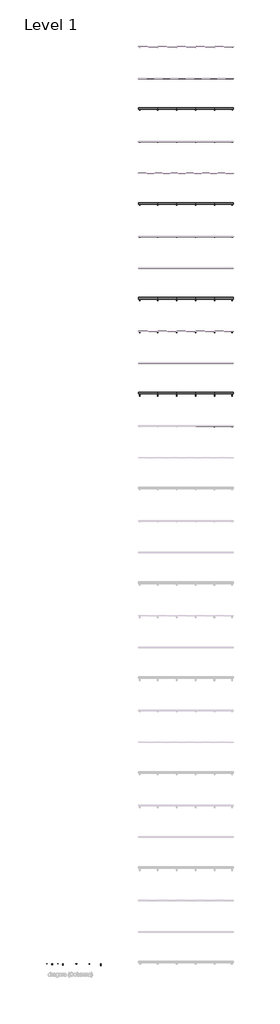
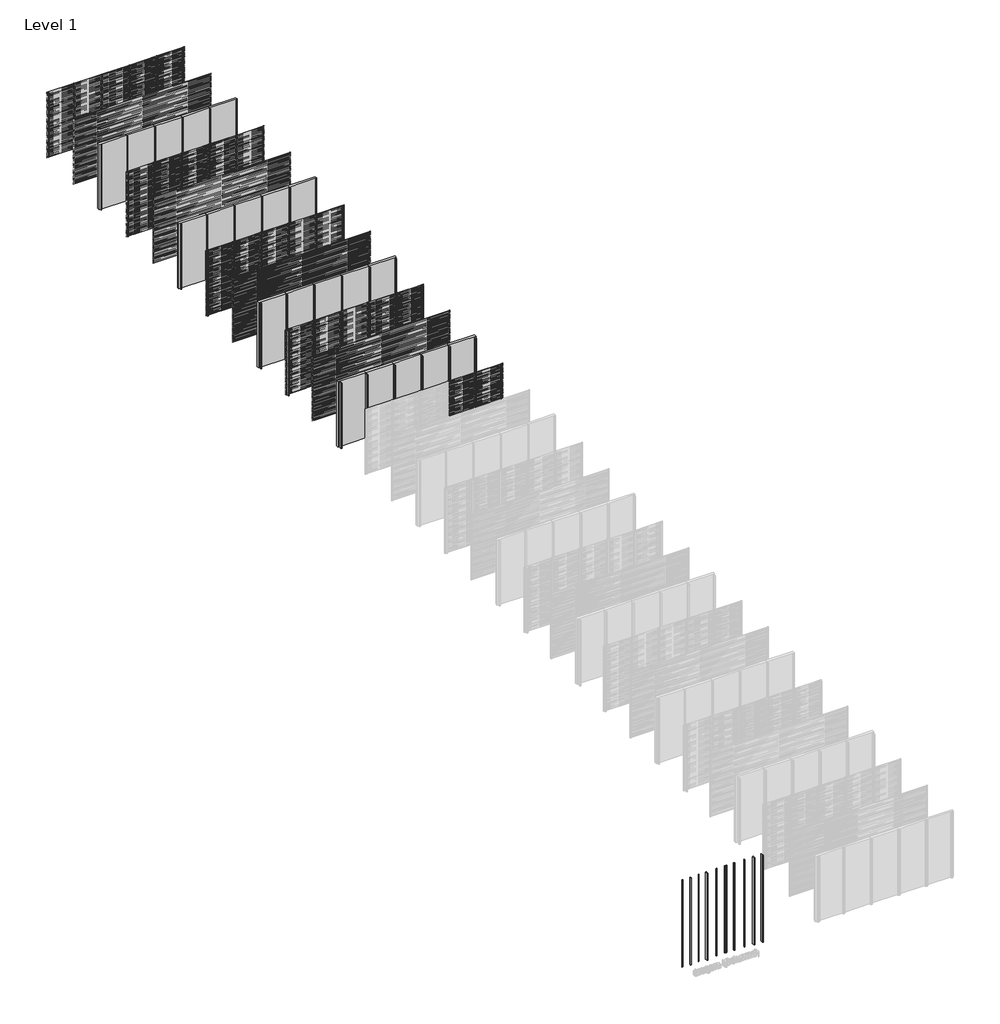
# One storey, part 2 of 77: 50 members, 46 plates, 10 columns.
"""IFC4 building model written with IfcOpenShell, lengths in millimetres."""

from ifc_helpers import new_model, si_unit, origin, origin_with_axes, place, context, project, spatial, polyline, outline, extrude, transform, mapped, element, save
from components import std_5c565dbb, std_899e7a4b, std_785593f7, std_43d18051, std_98619cea, std_01971508, std_518c84ec, std_1eaa2876, std_77a662f7, std_0d551fe3, rectangular_mullion_42be434b, rectangular_mullion_e1f482b2, rectangular_mullion_21e3ddae, rectangular_mullion_fb497acc, rectangular_mullion_3facce28, rectangular_mullion_ffdfeaf4, rectangular_mullion_e0a14876, rectangular_mullion_146f339b, rectangular_mullion_aa1047c5, rectangular_mullion_c2c7736a, rectangular_mullion_35b0a916, rectangular_mullion_bd250e2e, rectangular_mullion_7b49c8f1, rectangular_mullion_0fd695e7, empty_system_panel_empty_aabbdda4

model = new_model("IFC4")

# Units and contexts
model_context = context("Model", 3, world=origin())
ifc_project = project(units=[si_unit("LENGTHUNIT", "METRE", prefix="MILLI")], contexts=[model_context])

# Site, building, storey
site = spatial("IfcSite", under=ifc_project)
building = spatial("IfcBuilding", under=site)
storey = spatial("IfcBuildingStorey", under=building, Name="Level 1", Elevation=0.0)

# Columns
placement = place(None, origin())
std_shape = std_5c565dbb(model_context)
element("IfcColumn", 1, ObjectType="NLRS_21_COL_drager ST.014_Storax : std", at=placement, inside=storey, context=model_context, shape_type="MappedRepresentation", body=[
    mapped(std_shape, transform((-5824.7601511, -58000.0, 0.0), x_axis=(1.0, 0.0, 0.0), y_axis=(0.0, 1.0, 0.0), z_axis=(0.0, 0.0, 1.0))),
])
std_2_shape = std_899e7a4b(model_context)
element("IfcColumn", 2, ObjectType="NLRS_21_COL_drager ST.054_Storax : std", at=placement, inside=storey, context=model_context, shape_type="MappedRepresentation", body=[
    mapped(std_2_shape, transform((-5485.4429851, -58000.0, 0.0), x_axis=(1.0, 0.0, 0.0), y_axis=(0.0, 1.0, 0.0), z_axis=(0.0, 0.0, 1.0))),
])
std_3_shape = std_785593f7(model_context)
element("IfcColumn", 3, ObjectType="NLRS_21_COL_drager ST.0065_Storax : std", at=placement, inside=storey, context=model_context, shape_type="MappedRepresentation", body=[
    mapped(std_3_shape, transform((-5120.6954358, -58000.0, 0.0), x_axis=(1.0, 0.0, 0.0), y_axis=(0.0, 1.0, 0.0), z_axis=(0.0, 0.0, 1.0))),
])
std_4_shape = std_43d18051(model_context)
element("IfcColumn", 4, ObjectType="NLRS_21_COL_drager ST.100_Storax : std", at=placement, inside=storey, context=model_context, shape_type="MappedRepresentation", body=[
    mapped(std_4_shape, transform((-4798.3288682, -58000.0, 0.0), x_axis=(1.0, 0.0, 0.0), y_axis=(0.0, 1.0, 0.0), z_axis=(0.0, 0.0, 1.0))),
])
std_5_shape = std_98619cea(model_context)
element("IfcColumn", 5, ObjectType="NLRS_21_COL_drager ST.0195_Storax : std", at=placement, inside=storey, context=model_context, shape_type="MappedRepresentation", body=[
    mapped(std_5_shape, transform((-4346.8344505, -58000.0, 0.0), x_axis=(1.0, 0.0, 0.0), y_axis=(0.0, 1.0, 0.0), z_axis=(0.0, 0.0, 1.0))),
])
std_6_shape = std_01971508(model_context)
element("IfcColumn", 6, ObjectType="NLRS_21_COL_drager ST.0240_Storax : std", at=placement, inside=storey, context=model_context, shape_type="MappedRepresentation", body=[
    mapped(std_6_shape, transform((-3939.4792083, -58000.0, 0.0), x_axis=(1.0, 0.0, 0.0), y_axis=(0.0, 1.0, 0.0), z_axis=(0.0, 0.0, 1.0))),
])
std_7_shape = std_518c84ec(model_context)
element("IfcColumn", 7, ObjectType="NLRS_21_COL_drager ST.0440_Storax : std", at=placement, inside=storey, context=model_context, shape_type="MappedRepresentation", body=[
    mapped(std_7_shape, transform((-3585.3839676, -58000.0, 0.0), x_axis=(1.0, 0.0, 0.0), y_axis=(0.0, 1.0, 0.0), z_axis=(0.0, 0.0, 1.0))),
])
std_8_shape = std_1eaa2876(model_context)
element("IfcColumn", 8, ObjectType="NLRS_21_COL_drager ST.0460_Storax : std", at=placement, inside=storey, context=model_context, shape_type="MappedRepresentation", body=[
    mapped(std_8_shape, transform((-3138.0700537, -58000.0, 0.0), x_axis=(1.0, 0.0, 0.0), y_axis=(0.0, 1.0, 0.0), z_axis=(0.0, 0.0, 1.0))),
])
std_9_shape = std_77a662f7(model_context)
element("IfcColumn", 9, ObjectType="NLRS_21_COL_drager ST.0995_Storax : std", at=placement, inside=storey, context=model_context, shape_type="MappedRepresentation", body=[
    mapped(std_9_shape, transform((-2753.4636979, -58000.0, 0.0), x_axis=(1.0, 0.0, 0.0), y_axis=(0.0, 1.0, 0.0), z_axis=(0.0, 0.0, 1.0))),
])
std_10_shape = std_0d551fe3(model_context)
element("IfcColumn", 10, ObjectType="NLRS_21_COL_drager ST.1250_Storax : std", at=placement, inside=storey, context=model_context, shape_type="MappedRepresentation", body=[
    mapped(std_10_shape, transform((-2393.9403653, -58000.0, 0.0), x_axis=(1.0, 0.0, 0.0), y_axis=(0.0, 1.0, 0.0), z_axis=(0.0, 0.0, 1.0))),
])

# Members
rectangular_mullion_shape = rectangular_mullion_42be434b(model_context)
element("IfcMember", 11, ObjectType="Rectangular Mullion : NLRS_21_CWM_drager LD.0065_Storax", at=placement, inside=storey, context=model_context, shape_type="MappedRepresentation", body=[
    mapped(rectangular_mullion_shape, transform((4800.0, 0.0, 0.0), x_axis=(-1.0, 0.0, 0.0), y_axis=(0.0, 1.0, 0.0), z_axis=(0.0, 0.0, -1.0))),
])
element("IfcMember", 12, ObjectType="Rectangular Mullion : NLRS_21_CWM_drager LD.0065_Storax", at=placement, inside=storey, context=model_context, shape_type="MappedRepresentation", body=[
    mapped(rectangular_mullion_shape, transform((3600.0, 0.0, 0.0), x_axis=(-1.0, 0.0, 0.0), y_axis=(0.0, 1.0, 0.0), z_axis=(0.0, 0.0, -1.0))),
])
element("IfcMember", 13, ObjectType="Rectangular Mullion : NLRS_21_CWM_drager LD.0065_Storax", at=placement, inside=storey, context=model_context, shape_type="MappedRepresentation", body=[
    mapped(rectangular_mullion_shape, transform((2400.0, 0.0, 0.0), x_axis=(-1.0, 0.0, 0.0), y_axis=(0.0, 1.0, 0.0), z_axis=(0.0, 0.0, -1.0))),
])
element("IfcMember", 14, ObjectType="Rectangular Mullion : NLRS_21_CWM_drager LD.0065_Storax", at=placement, inside=storey, context=model_context, shape_type="MappedRepresentation", body=[
    mapped(rectangular_mullion_shape, transform((1200.0, 0.0, 0.0), x_axis=(-1.0, 0.0, 0.0), y_axis=(0.0, 1.0, 0.0), z_axis=(0.0, 0.0, -1.0))),
])
element("IfcMember", 15, ObjectType="Rectangular Mullion : NLRS_21_CWM_drager LD.0065_Storax", at=placement, inside=storey, context=model_context, shape_type="MappedRepresentation", body=[
    mapped(rectangular_mullion_shape, transform((4800.0, -4000.0, 0.0), x_axis=(-1.0, 0.0, 0.0), y_axis=(0.0, 1.0, 0.0), z_axis=(0.0, 0.0, -1.0))),
])
element("IfcMember", 16, ObjectType="Rectangular Mullion : NLRS_21_CWM_drager LD.0065_Storax", at=placement, inside=storey, context=model_context, shape_type="MappedRepresentation", body=[
    mapped(rectangular_mullion_shape, transform((3600.0, -4000.0, 0.0), x_axis=(-1.0, 0.0, 0.0), y_axis=(0.0, 1.0, 0.0), z_axis=(0.0, 0.0, -1.0))),
])
element("IfcMember", 17, ObjectType="Rectangular Mullion : NLRS_21_CWM_drager LD.0065_Storax", at=placement, inside=storey, context=model_context, shape_type="MappedRepresentation", body=[
    mapped(rectangular_mullion_shape, transform((2400.0, -4000.0, 0.0), x_axis=(-1.0, 0.0, 0.0), y_axis=(0.0, 1.0, 0.0), z_axis=(0.0, 0.0, -1.0))),
])
element("IfcMember", 18, ObjectType="Rectangular Mullion : NLRS_21_CWM_drager LD.0065_Storax", at=placement, inside=storey, context=model_context, shape_type="MappedRepresentation", body=[
    mapped(rectangular_mullion_shape, transform((1200.0, -4000.0, 0.0), x_axis=(-1.0, 0.0, 0.0), y_axis=(0.0, 1.0, 0.0), z_axis=(0.0, 0.0, -1.0))),
])
rectangular_mullion_2_shape = rectangular_mullion_e1f482b2(model_context)
element("IfcMember", 19, ObjectType="Rectangular Mullion : NLRS_21_CWM_drager LD.0195_Storax", at=placement, inside=storey, context=model_context, shape_type="MappedRepresentation", body=[
    mapped(rectangular_mullion_2_shape, transform((4800.0, -6000.0, 0.0), x_axis=(-1.0, 0.0, 0.0), y_axis=(0.0, 1.0, 0.0), z_axis=(0.0, 0.0, -1.0))),
])
element("IfcMember", 20, ObjectType="Rectangular Mullion : NLRS_21_CWM_drager LD.0195_Storax", at=placement, inside=storey, context=model_context, shape_type="MappedRepresentation", body=[
    mapped(rectangular_mullion_2_shape, transform((3600.0, -6000.0, 0.0), x_axis=(-1.0, 0.0, 0.0), y_axis=(0.0, 1.0, 0.0), z_axis=(0.0, 0.0, -1.0))),
])
element("IfcMember", 21, ObjectType="Rectangular Mullion : NLRS_21_CWM_drager LD.0195_Storax", at=placement, inside=storey, context=model_context, shape_type="MappedRepresentation", body=[
    mapped(rectangular_mullion_2_shape, transform((2400.0, -6000.0, 0.0), x_axis=(-1.0, 0.0, 0.0), y_axis=(0.0, 1.0, 0.0), z_axis=(0.0, 0.0, -1.0))),
])
element("IfcMember", 22, ObjectType="Rectangular Mullion : NLRS_21_CWM_drager LD.0195_Storax", at=placement, inside=storey, context=model_context, shape_type="MappedRepresentation", body=[
    mapped(rectangular_mullion_2_shape, transform((1200.0, -6000.0, 0.0), x_axis=(-1.0, 0.0, 0.0), y_axis=(0.0, 1.0, 0.0), z_axis=(0.0, 0.0, -1.0))),
])
element("IfcMember", 23, ObjectType="Rectangular Mullion : NLRS_21_CWM_drager LD.0195_Storax", at=placement, inside=storey, context=model_context, shape_type="MappedRepresentation", body=[
    mapped(rectangular_mullion_2_shape, transform((4800.0, -10000.0, 0.0), x_axis=(-1.0, 0.0, 0.0), y_axis=(0.0, 1.0, 0.0), z_axis=(0.0, 0.0, -1.0))),
])
element("IfcMember", 24, ObjectType="Rectangular Mullion : NLRS_21_CWM_drager LD.0195_Storax", at=placement, inside=storey, context=model_context, shape_type="MappedRepresentation", body=[
    mapped(rectangular_mullion_2_shape, transform((3600.0, -10000.0, 0.0), x_axis=(-1.0, 0.0, 0.0), y_axis=(0.0, 1.0, 0.0), z_axis=(0.0, 0.0, -1.0))),
])
element("IfcMember", 25, ObjectType="Rectangular Mullion : NLRS_21_CWM_drager LD.0195_Storax", at=placement, inside=storey, context=model_context, shape_type="MappedRepresentation", body=[
    mapped(rectangular_mullion_2_shape, transform((2400.0, -10000.0, 0.0), x_axis=(-1.0, 0.0, 0.0), y_axis=(0.0, 1.0, 0.0), z_axis=(0.0, 0.0, -1.0))),
])
element("IfcMember", 26, ObjectType="Rectangular Mullion : NLRS_21_CWM_drager LD.0195_Storax", at=placement, inside=storey, context=model_context, shape_type="MappedRepresentation", body=[
    mapped(rectangular_mullion_2_shape, transform((1200.0, -10000.0, 0.0), x_axis=(-1.0, 0.0, 0.0), y_axis=(0.0, 1.0, 0.0), z_axis=(0.0, 0.0, -1.0))),
])
rectangular_mullion_3_shape = rectangular_mullion_21e3ddae(model_context)
element("IfcMember", 27, ObjectType="Rectangular Mullion : NLRS_21_CWM_drager LD.0460_Storax", at=placement, inside=storey, context=model_context, shape_type="MappedRepresentation", body=[
    mapped(rectangular_mullion_3_shape, transform((4800.0, -12000.0, 0.0), x_axis=(-1.0, 0.0, 0.0), y_axis=(0.0, 1.0, 0.0), z_axis=(0.0, 0.0, -1.0))),
])
element("IfcMember", 28, ObjectType="Rectangular Mullion : NLRS_21_CWM_drager LD.0460_Storax", at=placement, inside=storey, context=model_context, shape_type="MappedRepresentation", body=[
    mapped(rectangular_mullion_3_shape, transform((3600.0, -12000.0, 0.0), x_axis=(-1.0, 0.0, 0.0), y_axis=(0.0, 1.0, 0.0), z_axis=(0.0, 0.0, -1.0))),
])
element("IfcMember", 29, ObjectType="Rectangular Mullion : NLRS_21_CWM_drager LD.0460_Storax", at=placement, inside=storey, context=model_context, shape_type="MappedRepresentation", body=[
    mapped(rectangular_mullion_3_shape, transform((2400.0, -12000.0, 0.0), x_axis=(-1.0, 0.0, 0.0), y_axis=(0.0, 1.0, 0.0), z_axis=(0.0, 0.0, -1.0))),
])
element("IfcMember", 30, ObjectType="Rectangular Mullion : NLRS_21_CWM_drager LD.0460_Storax", at=placement, inside=storey, context=model_context, shape_type="MappedRepresentation", body=[
    mapped(rectangular_mullion_3_shape, transform((1200.0, -12000.0, 0.0), x_axis=(-1.0, 0.0, 0.0), y_axis=(0.0, 1.0, 0.0), z_axis=(0.0, 0.0, -1.0))),
])
element("IfcMember", 31, ObjectType="Rectangular Mullion : NLRS_21_CWM_drager LD.0460_Storax", at=placement, inside=storey, context=model_context, shape_type="MappedRepresentation", body=[
    mapped(rectangular_mullion_3_shape, transform((4800.0, -16000.0, 0.0), x_axis=(-1.0, 0.0, 0.0), y_axis=(0.0, 1.0, 0.0), z_axis=(0.0, 0.0, -1.0))),
])
element("IfcMember", 32, ObjectType="Rectangular Mullion : NLRS_21_CWM_drager LD.0460_Storax", at=placement, inside=storey, context=model_context, shape_type="MappedRepresentation", body=[
    mapped(rectangular_mullion_3_shape, transform((3600.0, -16000.0, 0.0), x_axis=(-1.0, 0.0, 0.0), y_axis=(0.0, 1.0, 0.0), z_axis=(0.0, 0.0, -1.0))),
])
element("IfcMember", 33, ObjectType="Rectangular Mullion : NLRS_21_CWM_drager LD.0460_Storax", at=placement, inside=storey, context=model_context, shape_type="MappedRepresentation", body=[
    mapped(rectangular_mullion_3_shape, transform((2400.0, -16000.0, 0.0), x_axis=(-1.0, 0.0, 0.0), y_axis=(0.0, 1.0, 0.0), z_axis=(0.0, 0.0, -1.0))),
])
element("IfcMember", 34, ObjectType="Rectangular Mullion : NLRS_21_CWM_drager LD.0460_Storax", at=placement, inside=storey, context=model_context, shape_type="MappedRepresentation", body=[
    mapped(rectangular_mullion_3_shape, transform((1200.0, -16000.0, 0.0), x_axis=(-1.0, 0.0, 0.0), y_axis=(0.0, 1.0, 0.0), z_axis=(0.0, 0.0, -1.0))),
])
rectangular_mullion_4_shape = rectangular_mullion_fb497acc(model_context)
element("IfcMember", 35, ObjectType="Rectangular Mullion : NLRS_21_CWM_drager LD.0995_Storax", at=placement, inside=storey, context=model_context, shape_type="MappedRepresentation", body=[
    mapped(rectangular_mullion_4_shape, transform((4800.0, -18000.0, 0.0), x_axis=(-1.0, 0.0, 0.0), y_axis=(0.0, 1.0, 0.0), z_axis=(0.0, 0.0, -1.0))),
])
element("IfcMember", 36, ObjectType="Rectangular Mullion : NLRS_21_CWM_drager LD.0995_Storax", at=placement, inside=storey, context=model_context, shape_type="MappedRepresentation", body=[
    mapped(rectangular_mullion_4_shape, transform((3600.0, -18000.0, 0.0), x_axis=(-1.0, 0.0, 0.0), y_axis=(0.0, 1.0, 0.0), z_axis=(0.0, 0.0, -1.0))),
])
element("IfcMember", 37, ObjectType="Rectangular Mullion : NLRS_21_CWM_drager LD.0995_Storax", at=placement, inside=storey, context=model_context, shape_type="MappedRepresentation", body=[
    mapped(rectangular_mullion_4_shape, transform((2400.0, -18000.0, 0.0), x_axis=(-1.0, 0.0, 0.0), y_axis=(0.0, 1.0, 0.0), z_axis=(0.0, 0.0, -1.0))),
])
element("IfcMember", 38, ObjectType="Rectangular Mullion : NLRS_21_CWM_drager LD.0995_Storax", at=placement, inside=storey, context=model_context, shape_type="MappedRepresentation", body=[
    mapped(rectangular_mullion_4_shape, transform((1200.0, -18000.0, 0.0), x_axis=(-1.0, 0.0, 0.0), y_axis=(0.0, 1.0, 0.0), z_axis=(0.0, 0.0, -1.0))),
])
element("IfcMember", 39, ObjectType="Rectangular Mullion : NLRS_21_CWM_drager LD.0995_Storax", at=placement, inside=storey, context=model_context, shape_type="MappedRepresentation", body=[
    mapped(rectangular_mullion_4_shape, transform((4800.0, -22000.0, 0.0), x_axis=(-1.0, 0.0, 0.0), y_axis=(0.0, 1.0, 0.0), z_axis=(0.0, 0.0, -1.0))),
])
element("IfcMember", 40, ObjectType="Rectangular Mullion : NLRS_21_CWM_drager LD.0995_Storax", at=placement, inside=storey, context=model_context, shape_type="MappedRepresentation", body=[
    mapped(rectangular_mullion_4_shape, transform((3600.0, -22000.0, 0.0), x_axis=(-1.0, 0.0, 0.0), y_axis=(0.0, 1.0, 0.0), z_axis=(0.0, 0.0, -1.0))),
])
element("IfcMember", 41, ObjectType="Rectangular Mullion : NLRS_21_CWM_drager LD.0995_Storax", at=placement, inside=storey, context=model_context, shape_type="MappedRepresentation", body=[
    mapped(rectangular_mullion_4_shape, transform((2400.0, -22000.0, 0.0), x_axis=(-1.0, 0.0, 0.0), y_axis=(0.0, 1.0, 0.0), z_axis=(0.0, 0.0, -1.0))),
])
element("IfcMember", 42, ObjectType="Rectangular Mullion : NLRS_21_CWM_drager LD.0995_Storax", at=placement, inside=storey, context=model_context, shape_type="MappedRepresentation", body=[
    mapped(rectangular_mullion_4_shape, transform((1200.0, -22000.0, 0.0), x_axis=(-1.0, 0.0, 0.0), y_axis=(0.0, 1.0, 0.0), z_axis=(0.0, 0.0, -1.0))),
])
rectangular_mullion_5_shape = rectangular_mullion_3facce28(model_context)
element("IfcMember", 43, ObjectType="Rectangular Mullion : NLRS_21_CWM_drager SD.014_Storax", at=placement, inside=storey, context=model_context, shape_type="MappedRepresentation", body=[
    mapped(rectangular_mullion_5_shape, transform((4800.0, -24000.0, 0.0), x_axis=(-1.0, 0.0, 0.0), y_axis=(0.0, 1.0, 0.0), z_axis=(0.0, 0.0, -1.0))),
])
rectangular_mullion_6_shape = rectangular_mullion_ffdfeaf4(model_context)
element("IfcMember", 44, ObjectType="Rectangular Mullion : NLRS_21_CWM_drager LD.0065 - links_Storax", at=placement, inside=storey, context=model_context, shape_type="MappedRepresentation", body=[
    mapped(rectangular_mullion_6_shape, transform((0.0, 0.0, 0.0), x_axis=(-1.0, 0.0, 0.0), y_axis=(0.0, 1.0, 0.0), z_axis=(0.0, 0.0, -1.0))),
])
element("IfcMember", 45, ObjectType="Rectangular Mullion : NLRS_21_CWM_drager LD.0065 - links_Storax", at=placement, inside=storey, context=model_context, shape_type="MappedRepresentation", body=[
    mapped(rectangular_mullion_6_shape, transform((0.0, -4000.0, 0.0), x_axis=(-1.0, 0.0, 0.0), y_axis=(0.0, 1.0, 0.0), z_axis=(0.0, 0.0, -1.0))),
])
rectangular_mullion_7_shape = rectangular_mullion_e0a14876(model_context)
element("IfcMember", 46, ObjectType="Rectangular Mullion : NLRS_21_CWM_drager LD.0065 - rechts_Storax", at=placement, inside=storey, context=model_context, shape_type="MappedRepresentation", body=[
    mapped(rectangular_mullion_7_shape, transform((6000.0, 0.0, 3000.0), x_axis=(1.0, 0.0, 0.0), y_axis=(0.0, 1.0, 0.0), z_axis=(0.0, 0.0, 1.0))),
])
element("IfcMember", 47, ObjectType="Rectangular Mullion : NLRS_21_CWM_drager LD.0065 - rechts_Storax", at=placement, inside=storey, context=model_context, shape_type="MappedRepresentation", body=[
    mapped(rectangular_mullion_7_shape, transform((6000.0, -4000.0, 3000.0), x_axis=(1.0, 0.0, 0.0), y_axis=(0.0, 1.0, 0.0), z_axis=(0.0, 0.0, 1.0))),
])
rectangular_mullion_8_shape = rectangular_mullion_146f339b(model_context)
element("IfcMember", 48, ObjectType="Rectangular Mullion : NLRS_21_CWM_drager LD.0195 - links_Storax", at=placement, inside=storey, context=model_context, shape_type="MappedRepresentation", body=[
    mapped(rectangular_mullion_8_shape, transform((0.0, -6000.0, 0.0), x_axis=(-1.0, 0.0, 0.0), y_axis=(0.0, 1.0, 0.0), z_axis=(0.0, 0.0, -1.0))),
])
element("IfcMember", 49, ObjectType="Rectangular Mullion : NLRS_21_CWM_drager LD.0195 - links_Storax", at=placement, inside=storey, context=model_context, shape_type="MappedRepresentation", body=[
    mapped(rectangular_mullion_8_shape, transform((0.0, -10000.0, 0.0), x_axis=(-1.0, 0.0, 0.0), y_axis=(0.0, 1.0, 0.0), z_axis=(0.0, 0.0, -1.0))),
])
rectangular_mullion_9_shape = rectangular_mullion_aa1047c5(model_context)
element("IfcMember", 50, ObjectType="Rectangular Mullion : NLRS_21_CWM_drager LD.0195 - rechts_Storax", at=placement, inside=storey, context=model_context, shape_type="MappedRepresentation", body=[
    mapped(rectangular_mullion_9_shape, transform((6000.0, -6000.0, 3000.0), x_axis=(1.0, 0.0, 0.0), y_axis=(0.0, 1.0, 0.0), z_axis=(0.0, 0.0, 1.0))),
])
element("IfcMember", 51, ObjectType="Rectangular Mullion : NLRS_21_CWM_drager LD.0195 - rechts_Storax", at=placement, inside=storey, context=model_context, shape_type="MappedRepresentation", body=[
    mapped(rectangular_mullion_9_shape, transform((6000.0, -10000.0, 3000.0), x_axis=(1.0, 0.0, 0.0), y_axis=(0.0, 1.0, 0.0), z_axis=(0.0, 0.0, 1.0))),
])
rectangular_mullion_10_shape = rectangular_mullion_c2c7736a(model_context)
element("IfcMember", 52, ObjectType="Rectangular Mullion : NLRS_21_CWM_drager LD.0460 - links_Storax", at=placement, inside=storey, context=model_context, shape_type="MappedRepresentation", body=[
    mapped(rectangular_mullion_10_shape, transform((0.0, -12000.0, 0.0), x_axis=(-1.0, 0.0, 0.0), y_axis=(0.0, 1.0, 0.0), z_axis=(0.0, 0.0, -1.0))),
])
element("IfcMember", 53, ObjectType="Rectangular Mullion : NLRS_21_CWM_drager LD.0460 - links_Storax", at=placement, inside=storey, context=model_context, shape_type="MappedRepresentation", body=[
    mapped(rectangular_mullion_10_shape, transform((0.0, -16000.0, 0.0), x_axis=(-1.0, 0.0, 0.0), y_axis=(0.0, 1.0, 0.0), z_axis=(0.0, 0.0, -1.0))),
])
rectangular_mullion_11_shape = rectangular_mullion_35b0a916(model_context)
element("IfcMember", 54, ObjectType="Rectangular Mullion : NLRS_21_CWM_drager LD.0460 - rechts_Storax", at=placement, inside=storey, context=model_context, shape_type="MappedRepresentation", body=[
    mapped(rectangular_mullion_11_shape, transform((6000.0, -12000.0, 3000.0), x_axis=(1.0, 0.0, 0.0), y_axis=(0.0, 1.0, 0.0), z_axis=(0.0, 0.0, 1.0))),
])
element("IfcMember", 55, ObjectType="Rectangular Mullion : NLRS_21_CWM_drager LD.0460 - rechts_Storax", at=placement, inside=storey, context=model_context, shape_type="MappedRepresentation", body=[
    mapped(rectangular_mullion_11_shape, transform((6000.0, -16000.0, 3000.0), x_axis=(1.0, 0.0, 0.0), y_axis=(0.0, 1.0, 0.0), z_axis=(0.0, 0.0, 1.0))),
])
rectangular_mullion_12_shape = rectangular_mullion_bd250e2e(model_context)
element("IfcMember", 56, ObjectType="Rectangular Mullion : NLRS_21_CWM_drager LD.0995 - links_Storax", at=placement, inside=storey, context=model_context, shape_type="MappedRepresentation", body=[
    mapped(rectangular_mullion_12_shape, transform((0.0, -18000.0, 0.0), x_axis=(-1.0, 0.0, 0.0), y_axis=(0.0, 1.0, 0.0), z_axis=(0.0, 0.0, -1.0))),
])
element("IfcMember", 57, ObjectType="Rectangular Mullion : NLRS_21_CWM_drager LD.0995 - links_Storax", at=placement, inside=storey, context=model_context, shape_type="MappedRepresentation", body=[
    mapped(rectangular_mullion_12_shape, transform((0.0, -22000.0, 0.0), x_axis=(-1.0, 0.0, 0.0), y_axis=(0.0, 1.0, 0.0), z_axis=(0.0, 0.0, -1.0))),
])
rectangular_mullion_13_shape = rectangular_mullion_7b49c8f1(model_context)
element("IfcMember", 58, ObjectType="Rectangular Mullion : NLRS_21_CWM_drager LD.0995 - rechts_Storax", at=placement, inside=storey, context=model_context, shape_type="MappedRepresentation", body=[
    mapped(rectangular_mullion_13_shape, transform((6000.0, -18000.0, 3000.0), x_axis=(1.0, 0.0, 0.0), y_axis=(0.0, 1.0, 0.0), z_axis=(0.0, 0.0, 1.0))),
])
element("IfcMember", 59, ObjectType="Rectangular Mullion : NLRS_21_CWM_drager LD.0995 - rechts_Storax", at=placement, inside=storey, context=model_context, shape_type="MappedRepresentation", body=[
    mapped(rectangular_mullion_13_shape, transform((6000.0, -22000.0, 3000.0), x_axis=(1.0, 0.0, 0.0), y_axis=(0.0, 1.0, 0.0), z_axis=(0.0, 0.0, 1.0))),
])
rectangular_mullion_14_shape = rectangular_mullion_0fd695e7(model_context)
element("IfcMember", 60, ObjectType="Rectangular Mullion : NLRS_21_CWM_drager SD.014 - rechts_Storax", at=placement, inside=storey, context=model_context, shape_type="MappedRepresentation", body=[
    mapped(rectangular_mullion_14_shape, transform((6000.0, -24000.0, 3000.0), x_axis=(1.0, 0.0, 0.0), y_axis=(0.0, 1.0, 0.0), z_axis=(0.0, 0.0, 1.0))),
])

# Plates
element("IfcPlate", 61, ObjectType="NLRS_21_WA_lamellenwand Linius - L.033IM1_Storax", at=placement, inside=storey, context=model_context, shape_type="SweptSolid", body=[
    extrude(outline(polyline([(0.0, 1.0), (1200.0, 1.0), (1200.0, -1.0), (0.0, -1.0), (0.0, 1.0)])), origin_with_axes(), (0.0, 0.0, 1.0), 3000.0),
])
element("IfcPlate", 62, ObjectType="NLRS_21_WA_lamellenwand Linius - L.033IM1_Storax", at=placement, inside=storey, context=model_context, shape_type="SweptSolid", body=[
    extrude(outline(polyline([(1200.0, 1.0), (2400.0, 1.0), (2400.0, -1.0), (1200.0, -1.0), (1200.0, 1.0)])), origin_with_axes(), (0.0, 0.0, 1.0), 3000.0),
])
element("IfcPlate", 63, ObjectType="NLRS_21_WA_lamellenwand Linius - L.033IM1_Storax", at=placement, inside=storey, context=model_context, shape_type="SweptSolid", body=[
    extrude(outline(polyline([(2400.0, 1.0), (3600.0, 1.0), (3600.0, -1.0), (2400.0, -1.0), (2400.0, 1.0)])), origin_with_axes(), (0.0, 0.0, 1.0), 3000.0),
])
element("IfcPlate", 64, ObjectType="NLRS_21_WA_lamellenwand Linius - L.033IM1_Storax", at=placement, inside=storey, context=model_context, shape_type="SweptSolid", body=[
    extrude(outline(polyline([(3600.0, 1.0), (4800.0, 1.0), (4800.0, -1.0), (3600.0, -1.0), (3600.0, 1.0)])), origin_with_axes(), (0.0, 0.0, 1.0), 3000.0),
])
element("IfcPlate", 65, ObjectType="NLRS_21_WA_lamellenwand Linius - L.033IM1_Storax", at=placement, inside=storey, context=model_context, shape_type="SweptSolid", body=[
    extrude(outline(polyline([(4800.0, 1.0), (6000.0, 1.0), (6000.0, -1.0), (4800.0, -1.0), (4800.0, 1.0)])), origin_with_axes(), (0.0, 0.0, 1.0), 3000.0),
])
element("IfcPlate", 66, ObjectType="NLRS_21_WA_lamellenwand Linius - L.033IM1_Storax", at=placement, inside=storey, context=model_context, shape_type="SweptSolid", body=[
    extrude(outline(polyline([(0.0, -1999.0), (6000.0, -1999.0), (6000.0, -2001.0), (0.0, -2001.0), (0.0, -1999.0)])), origin_with_axes(), (0.0, 0.0, 1.0), 3000.0),
])
element("IfcPlate", 67, ObjectType="NLRS_21_WA_lamellenwand Linius - L.033IM1_Storax", at=placement, inside=storey, context=model_context, shape_type="SweptSolid", body=[
    extrude(outline(polyline([(0.0, -5999.0), (1200.0, -5999.0), (1200.0, -6001.0), (0.0, -6001.0), (0.0, -5999.0)])), origin_with_axes(), (0.0, 0.0, 1.0), 3000.0),
])
element("IfcPlate", 68, ObjectType="NLRS_21_WA_lamellenwand Linius - L.033IM1_Storax", at=placement, inside=storey, context=model_context, shape_type="SweptSolid", body=[
    extrude(outline(polyline([(1200.0, -5999.0), (2400.0, -5999.0), (2400.0, -6001.0), (1200.0, -6001.0), (1200.0, -5999.0)])), origin_with_axes(), (0.0, 0.0, 1.0), 3000.0),
])
element("IfcPlate", 69, ObjectType="NLRS_21_WA_lamellenwand Linius - L.033IM1_Storax", at=placement, inside=storey, context=model_context, shape_type="SweptSolid", body=[
    extrude(outline(polyline([(2400.0, -5999.0), (3600.0, -5999.0), (3600.0, -6001.0), (2400.0, -6001.0), (2400.0, -5999.0)])), origin_with_axes(), (0.0, 0.0, 1.0), 3000.0),
])
element("IfcPlate", 70, ObjectType="NLRS_21_WA_lamellenwand Linius - L.033IM1_Storax", at=placement, inside=storey, context=model_context, shape_type="SweptSolid", body=[
    extrude(outline(polyline([(3600.0, -5999.0), (4800.0, -5999.0), (4800.0, -6001.0), (3600.0, -6001.0), (3600.0, -5999.0)])), origin_with_axes(), (0.0, 0.0, 1.0), 3000.0),
])
element("IfcPlate", 71, ObjectType="NLRS_21_WA_lamellenwand Linius - L.033IM1_Storax", at=placement, inside=storey, context=model_context, shape_type="SweptSolid", body=[
    extrude(outline(polyline([(4800.0, -5999.0), (6000.0, -5999.0), (6000.0, -6001.0), (4800.0, -6001.0), (4800.0, -5999.0)])), origin_with_axes(), (0.0, 0.0, 1.0), 3000.0),
])
element("IfcPlate", 72, ObjectType="NLRS_21_WA_lamellenwand Linius - L.033IM1_Storax", at=placement, inside=storey, context=model_context, shape_type="SweptSolid", body=[
    extrude(outline(polyline([(0.0, -7999.0), (6000.0, -7999.0), (6000.0, -8001.0), (0.0, -8001.0), (0.0, -7999.0)])), origin_with_axes(), (0.0, 0.0, 1.0), 3000.0),
])
element("IfcPlate", 73, ObjectType="NLRS_21_WA_lamellenwand Linius - L.033IM1_Storax", at=placement, inside=storey, context=model_context, shape_type="SweptSolid", body=[
    extrude(outline(polyline([(0.0, -11999.0), (1200.0, -11999.0), (1200.0, -12001.0), (0.0, -12001.0), (0.0, -11999.0)])), origin_with_axes(), (0.0, 0.0, 1.0), 3000.0),
])
element("IfcPlate", 74, ObjectType="NLRS_21_WA_lamellenwand Linius - L.033IM1_Storax", at=placement, inside=storey, context=model_context, shape_type="SweptSolid", body=[
    extrude(outline(polyline([(1200.0, -11999.0), (2400.0, -11999.0), (2400.0, -12001.0), (1200.0, -12001.0), (1200.0, -11999.0)])), origin_with_axes(), (0.0, 0.0, 1.0), 3000.0),
])
element("IfcPlate", 75, ObjectType="NLRS_21_WA_lamellenwand Linius - L.033IM1_Storax", at=placement, inside=storey, context=model_context, shape_type="SweptSolid", body=[
    extrude(outline(polyline([(2400.0, -11999.0), (3600.0, -11999.0), (3600.0, -12001.0), (2400.0, -12001.0), (2400.0, -11999.0)])), origin_with_axes(), (0.0, 0.0, 1.0), 3000.0),
])
element("IfcPlate", 76, ObjectType="NLRS_21_WA_lamellenwand Linius - L.033IM1_Storax", at=placement, inside=storey, context=model_context, shape_type="SweptSolid", body=[
    extrude(outline(polyline([(3600.0, -11999.0), (4800.0, -11999.0), (4800.0, -12001.0), (3600.0, -12001.0), (3600.0, -11999.0)])), origin_with_axes(), (0.0, 0.0, 1.0), 3000.0),
])
element("IfcPlate", 77, ObjectType="NLRS_21_WA_lamellenwand Linius - L.033IM1_Storax", at=placement, inside=storey, context=model_context, shape_type="SweptSolid", body=[
    extrude(outline(polyline([(4800.0, -11999.0), (6000.0, -11999.0), (6000.0, -12001.0), (4800.0, -12001.0), (4800.0, -11999.0)])), origin_with_axes(), (0.0, 0.0, 1.0), 3000.0),
])
element("IfcPlate", 78, ObjectType="NLRS_21_WA_lamellenwand Linius - L.033IM1_Storax", at=placement, inside=storey, context=model_context, shape_type="SweptSolid", body=[
    extrude(outline(polyline([(0.0, -13999.0), (6000.0, -13999.0), (6000.0, -14001.0), (0.0, -14001.0), (0.0, -13999.0)])), origin_with_axes(), (0.0, 0.0, 1.0), 3000.0),
])
element("IfcPlate", 79, ObjectType="NLRS_21_WA_lamellenwand Linius - L.033IM1_Storax", at=placement, inside=storey, context=model_context, shape_type="SweptSolid", body=[
    extrude(outline(polyline([(0.0, -17999.0), (1200.0, -17999.0), (1200.0, -18001.0), (0.0, -18001.0), (0.0, -17999.0)])), origin_with_axes(), (0.0, 0.0, 1.0), 3000.0),
])
element("IfcPlate", 80, ObjectType="NLRS_21_WA_lamellenwand Linius - L.033IM1_Storax", at=placement, inside=storey, context=model_context, shape_type="SweptSolid", body=[
    extrude(outline(polyline([(1200.0, -17999.0), (2400.0, -17999.0), (2400.0, -18001.0), (1200.0, -18001.0), (1200.0, -17999.0)])), origin_with_axes(), (0.0, 0.0, 1.0), 3000.0),
])
element("IfcPlate", 81, ObjectType="NLRS_21_WA_lamellenwand Linius - L.033IM1_Storax", at=placement, inside=storey, context=model_context, shape_type="SweptSolid", body=[
    extrude(outline(polyline([(2400.0, -17999.0), (3600.0, -17999.0), (3600.0, -18001.0), (2400.0, -18001.0), (2400.0, -17999.0)])), origin_with_axes(), (0.0, 0.0, 1.0), 3000.0),
])
element("IfcPlate", 82, ObjectType="NLRS_21_WA_lamellenwand Linius - L.033IM1_Storax", at=placement, inside=storey, context=model_context, shape_type="SweptSolid", body=[
    extrude(outline(polyline([(3600.0, -17999.0), (4800.0, -17999.0), (4800.0, -18001.0), (3600.0, -18001.0), (3600.0, -17999.0)])), origin_with_axes(), (0.0, 0.0, 1.0), 3000.0),
])
element("IfcPlate", 83, ObjectType="NLRS_21_WA_lamellenwand Linius - L.033IM1_Storax", at=placement, inside=storey, context=model_context, shape_type="SweptSolid", body=[
    extrude(outline(polyline([(4800.0, -17999.0), (6000.0, -17999.0), (6000.0, -18001.0), (4800.0, -18001.0), (4800.0, -17999.0)])), origin_with_axes(), (0.0, 0.0, 1.0), 3000.0),
])
element("IfcPlate", 84, ObjectType="NLRS_21_WA_lamellenwand Linius - L.033IM1_Storax", at=placement, inside=storey, context=model_context, shape_type="SweptSolid", body=[
    extrude(outline(polyline([(0.0, -19999.0), (6000.0, -19999.0), (6000.0, -20001.0), (0.0, -20001.0), (0.0, -19999.0)])), origin_with_axes(), (0.0, 0.0, 1.0), 3000.0),
])
element("IfcPlate", 85, ObjectType="NLRS_21_WA_lamellenwand Linius - L.033IM1_Storax", at=placement, inside=storey, context=model_context, shape_type="SweptSolid", body=[
    extrude(outline(polyline([(3600.0, -23999.0), (4800.0, -23999.0), (4800.0, -24001.0), (3600.0, -24001.0), (3600.0, -23999.0)])), origin_with_axes(), (0.0, 0.0, 1.0), 3000.0),
])
element("IfcPlate", 86, ObjectType="NLRS_21_WA_lamellenwand Linius - L.033IM1_Storax", at=placement, inside=storey, context=model_context, shape_type="SweptSolid", body=[
    extrude(outline(polyline([(4800.0, -23999.0), (6000.0, -23999.0), (6000.0, -24001.0), (4800.0, -24001.0), (4800.0, -23999.0)])), origin_with_axes(), (0.0, 0.0, 1.0), 3000.0),
])
empty_system_panel_empty_shape = empty_system_panel_empty_aabbdda4(model_context)
element("IfcPlate", 87, ObjectType="Empty System Panel : Empty", at=placement, inside=storey, context=model_context, shape_type="MappedRepresentation", body=[
    mapped(empty_system_panel_empty_shape, transform((5400.0, -4000.0, 0.0), x_axis=(-1.0, 0.0, 0.0), y_axis=(0.0, -1.0, 0.0), z_axis=(0.0, 0.0, 1.0))),
])
element("IfcPlate", 88, ObjectType="Empty System Panel : Empty", at=placement, inside=storey, context=model_context, shape_type="MappedRepresentation", body=[
    mapped(empty_system_panel_empty_shape, transform((5400.0, -10000.0, 0.0), x_axis=(-1.0, 0.0, 0.0), y_axis=(0.0, -1.0, 0.0), z_axis=(0.0, 0.0, 1.0))),
])
element("IfcPlate", 89, ObjectType="Empty System Panel : Empty", at=placement, inside=storey, context=model_context, shape_type="MappedRepresentation", body=[
    mapped(empty_system_panel_empty_shape, transform((5400.0, -16000.0, 0.0), x_axis=(-1.0, 0.0, 0.0), y_axis=(0.0, -1.0, 0.0), z_axis=(0.0, 0.0, 1.0))),
])
element("IfcPlate", 90, ObjectType="Empty System Panel : Empty", at=placement, inside=storey, context=model_context, shape_type="MappedRepresentation", body=[
    mapped(empty_system_panel_empty_shape, transform((5400.0, -22000.0, 0.0), x_axis=(-1.0, 0.0, 0.0), y_axis=(0.0, -1.0, 0.0), z_axis=(0.0, 0.0, 1.0))),
])
element("IfcPlate", 91, ObjectType="Empty System Panel : Empty", at=placement, inside=storey, context=model_context, shape_type="MappedRepresentation", body=[
    mapped(empty_system_panel_empty_shape, transform((4200.0, -4000.0, 0.0), x_axis=(-1.0, 0.0, 0.0), y_axis=(0.0, -1.0, 0.0), z_axis=(0.0, 0.0, 1.0))),
])
element("IfcPlate", 92, ObjectType="Empty System Panel : Empty", at=placement, inside=storey, context=model_context, shape_type="MappedRepresentation", body=[
    mapped(empty_system_panel_empty_shape, transform((3000.0, -4000.0, 0.0), x_axis=(-1.0, 0.0, 0.0), y_axis=(0.0, -1.0, 0.0), z_axis=(0.0, 0.0, 1.0))),
])
element("IfcPlate", 93, ObjectType="Empty System Panel : Empty", at=placement, inside=storey, context=model_context, shape_type="MappedRepresentation", body=[
    mapped(empty_system_panel_empty_shape, transform((1800.0, -4000.0, 0.0), x_axis=(-1.0, 0.0, 0.0), y_axis=(0.0, -1.0, 0.0), z_axis=(0.0, 0.0, 1.0))),
])
element("IfcPlate", 94, ObjectType="Empty System Panel : Empty", at=placement, inside=storey, context=model_context, shape_type="MappedRepresentation", body=[
    mapped(empty_system_panel_empty_shape, transform((600.0, -4000.0, 0.0), x_axis=(-1.0, 0.0, 0.0), y_axis=(0.0, -1.0, 0.0), z_axis=(0.0, 0.0, 1.0))),
])
element("IfcPlate", 95, ObjectType="Empty System Panel : Empty", at=placement, inside=storey, context=model_context, shape_type="MappedRepresentation", body=[
    mapped(empty_system_panel_empty_shape, transform((4200.0, -10000.0, 0.0), x_axis=(-1.0, 0.0, 0.0), y_axis=(0.0, -1.0, 0.0), z_axis=(0.0, 0.0, 1.0))),
])
element("IfcPlate", 96, ObjectType="Empty System Panel : Empty", at=placement, inside=storey, context=model_context, shape_type="MappedRepresentation", body=[
    mapped(empty_system_panel_empty_shape, transform((3000.0, -10000.0, 0.0), x_axis=(-1.0, 0.0, 0.0), y_axis=(0.0, -1.0, 0.0), z_axis=(0.0, 0.0, 1.0))),
])
element("IfcPlate", 97, ObjectType="Empty System Panel : Empty", at=placement, inside=storey, context=model_context, shape_type="MappedRepresentation", body=[
    mapped(empty_system_panel_empty_shape, transform((1800.0, -10000.0, 0.0), x_axis=(-1.0, 0.0, 0.0), y_axis=(0.0, -1.0, 0.0), z_axis=(0.0, 0.0, 1.0))),
])
element("IfcPlate", 98, ObjectType="Empty System Panel : Empty", at=placement, inside=storey, context=model_context, shape_type="MappedRepresentation", body=[
    mapped(empty_system_panel_empty_shape, transform((600.0, -10000.0, 0.0), x_axis=(-1.0, 0.0, 0.0), y_axis=(0.0, -1.0, 0.0), z_axis=(0.0, 0.0, 1.0))),
])
element("IfcPlate", 99, ObjectType="Empty System Panel : Empty", at=placement, inside=storey, context=model_context, shape_type="MappedRepresentation", body=[
    mapped(empty_system_panel_empty_shape, transform((4200.0, -16000.0, 0.0), x_axis=(-1.0, 0.0, 0.0), y_axis=(0.0, -1.0, 0.0), z_axis=(0.0, 0.0, 1.0))),
])
element("IfcPlate", 100, ObjectType="Empty System Panel : Empty", at=placement, inside=storey, context=model_context, shape_type="MappedRepresentation", body=[
    mapped(empty_system_panel_empty_shape, transform((3000.0, -16000.0, 0.0), x_axis=(-1.0, 0.0, 0.0), y_axis=(0.0, -1.0, 0.0), z_axis=(0.0, 0.0, 1.0))),
])
element("IfcPlate", 101, ObjectType="Empty System Panel : Empty", at=placement, inside=storey, context=model_context, shape_type="MappedRepresentation", body=[
    mapped(empty_system_panel_empty_shape, transform((1800.0, -16000.0, 0.0), x_axis=(-1.0, 0.0, 0.0), y_axis=(0.0, -1.0, 0.0), z_axis=(0.0, 0.0, 1.0))),
])
element("IfcPlate", 102, ObjectType="Empty System Panel : Empty", at=placement, inside=storey, context=model_context, shape_type="MappedRepresentation", body=[
    mapped(empty_system_panel_empty_shape, transform((600.0, -16000.0, 0.0), x_axis=(-1.0, 0.0, 0.0), y_axis=(0.0, -1.0, 0.0), z_axis=(0.0, 0.0, 1.0))),
])
element("IfcPlate", 103, ObjectType="Empty System Panel : Empty", at=placement, inside=storey, context=model_context, shape_type="MappedRepresentation", body=[
    mapped(empty_system_panel_empty_shape, transform((4200.0, -22000.0, 0.0), x_axis=(-1.0, 0.0, 0.0), y_axis=(0.0, -1.0, 0.0), z_axis=(0.0, 0.0, 1.0))),
])
element("IfcPlate", 104, ObjectType="Empty System Panel : Empty", at=placement, inside=storey, context=model_context, shape_type="MappedRepresentation", body=[
    mapped(empty_system_panel_empty_shape, transform((3000.0, -22000.0, 0.0), x_axis=(-1.0, 0.0, 0.0), y_axis=(0.0, -1.0, 0.0), z_axis=(0.0, 0.0, 1.0))),
])
element("IfcPlate", 105, ObjectType="Empty System Panel : Empty", at=placement, inside=storey, context=model_context, shape_type="MappedRepresentation", body=[
    mapped(empty_system_panel_empty_shape, transform((1800.0, -22000.0, 0.0), x_axis=(-1.0, 0.0, 0.0), y_axis=(0.0, -1.0, 0.0), z_axis=(0.0, 0.0, 1.0))),
])
element("IfcPlate", 106, ObjectType="Empty System Panel : Empty", at=placement, inside=storey, context=model_context, shape_type="MappedRepresentation", body=[
    mapped(empty_system_panel_empty_shape, transform((600.0, -22000.0, 0.0), x_axis=(-1.0, 0.0, 0.0), y_axis=(0.0, -1.0, 0.0), z_axis=(0.0, 0.0, 1.0))),
])

save(model, "model.ifc")
